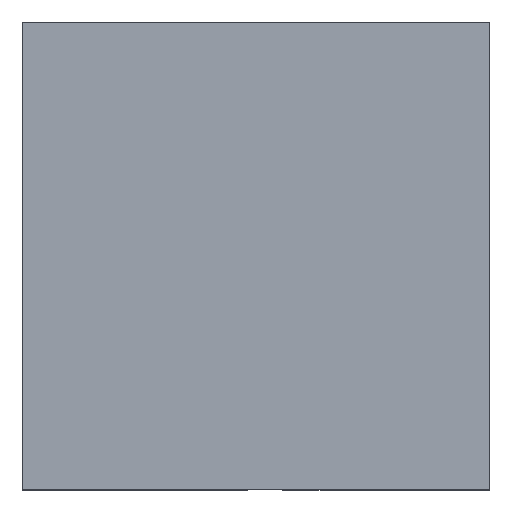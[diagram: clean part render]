
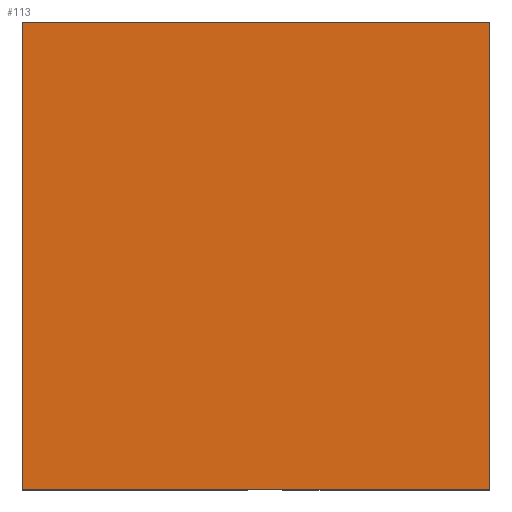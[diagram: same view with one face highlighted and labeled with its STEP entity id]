
A CAD part, top view. The second image highlights one B-rep face of the part: STEP entity #113.
In plain terms, the highlighted planar face has unit normal (0, 0, 1).
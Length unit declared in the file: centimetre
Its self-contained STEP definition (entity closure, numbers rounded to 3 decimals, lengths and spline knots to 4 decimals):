
#5 = EDGE_CURVE ( 'NONE', #54, #67, #186, .T. ) ;
#12 = CARTESIAN_POINT ( 'NONE',  ( 0., 0., 1000. ) ) ;
#19 = CARTESIAN_POINT ( 'NONE',  ( 0., 1000., 1000. ) ) ;
#35 = CARTESIAN_POINT ( 'NONE',  ( 1000., 0., 1000. ) ) ;
#39 = ORIENTED_EDGE ( 'NONE', *, *, #327, .T. ) ;
#40 = DIRECTION ( 'NONE',  ( 0., 0., 1. ) ) ;
#44 = EDGE_CURVE ( 'NONE', #188, #54, #63, .T. ) ;
#54 = VERTEX_POINT ( 'NONE', #99 ) ;
#55 = VECTOR ( 'NONE', #154, 100. ) ;
#63 = LINE ( 'NONE', #314, #359 ) ;
#66 = EDGE_CURVE ( 'NONE', #67, #380, #367, .T. ) ;
#67 = VERTEX_POINT ( 'NONE', #373 ) ;
#78 = LINE ( 'NONE', #236, #361 ) ;
#96 = VECTOR ( 'NONE', #218, 100. ) ;
#99 = CARTESIAN_POINT ( 'NONE',  ( 1000., 1000., 1000. ) ) ;
#102 = FACE_OUTER_BOUND ( 'NONE', #325, .T. ) ;
#103 = DIRECTION ( 'NONE',  ( 0., 1., 0. ) ) ;
#113 = ADVANCED_FACE ( 'NONE', ( #102 ), #342, .T. ) ;
#115 = ORIENTED_EDGE ( 'NONE', *, *, #44, .T. ) ;
#154 = DIRECTION ( 'NONE',  ( 0., -1., 0. ) ) ;
#169 = AXIS2_PLACEMENT_3D ( 'NONE', #222, #40, #324 ) ;
#184 = ORIENTED_EDGE ( 'NONE', *, *, #66, .T. ) ;
#186 = LINE ( 'NONE', #400, #96 ) ;
#188 = VERTEX_POINT ( 'NONE', #35 ) ;
#206 = DIRECTION ( 'NONE',  ( 1., 0., 0. ) ) ;
#218 = DIRECTION ( 'NONE',  ( -1., 0., 0. ) ) ;
#222 = CARTESIAN_POINT ( 'NONE',  ( 0., 0., 1000. ) ) ;
#236 = CARTESIAN_POINT ( 'NONE',  ( 0., 0., 1000. ) ) ;
#314 = CARTESIAN_POINT ( 'NONE',  ( 1000., 1000., 1000. ) ) ;
#316 = ORIENTED_EDGE ( 'NONE', *, *, #5, .T. ) ;
#324 = DIRECTION ( 'NONE',  ( 1., 0., 0. ) ) ;
#325 = EDGE_LOOP ( 'NONE', ( #184, #39, #115, #316 ) ) ;
#327 = EDGE_CURVE ( 'NONE', #380, #188, #78, .T. ) ;
#342 = PLANE ( 'NONE',  #169 ) ;
#359 = VECTOR ( 'NONE', #103, 100. ) ;
#361 = VECTOR ( 'NONE', #206, 100. ) ;
#367 = LINE ( 'NONE', #19, #55 ) ;
#373 = CARTESIAN_POINT ( 'NONE',  ( 0., 1000., 1000. ) ) ;
#380 = VERTEX_POINT ( 'NONE', #12 ) ;
#400 = CARTESIAN_POINT ( 'NONE',  ( 0., 1000., 1000. ) ) ;
